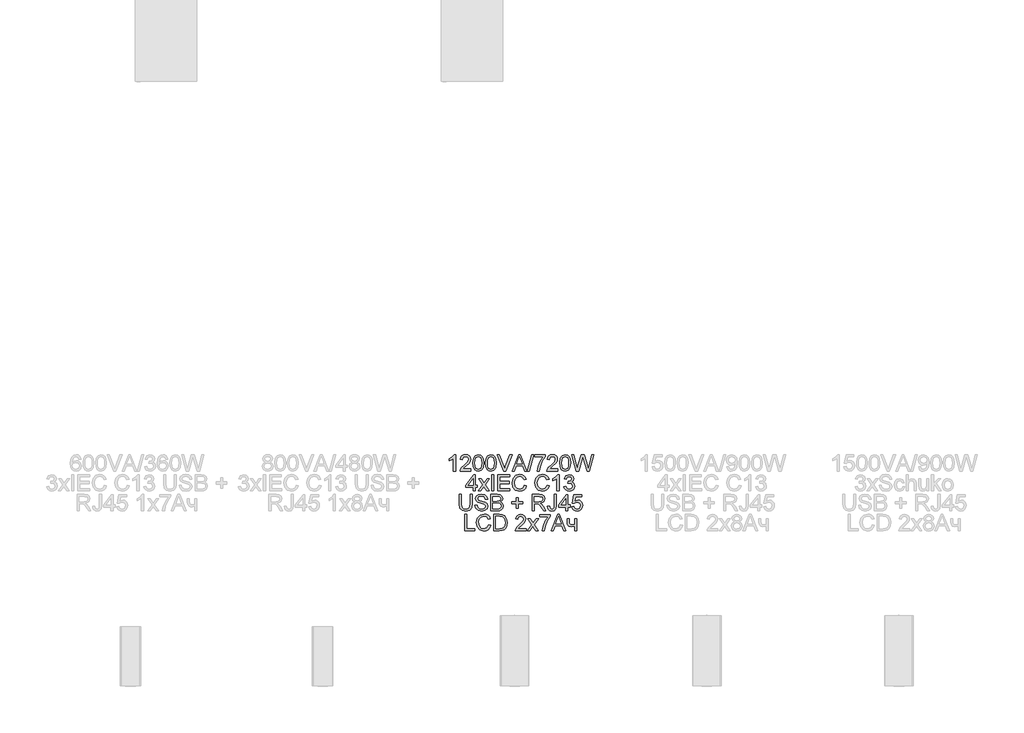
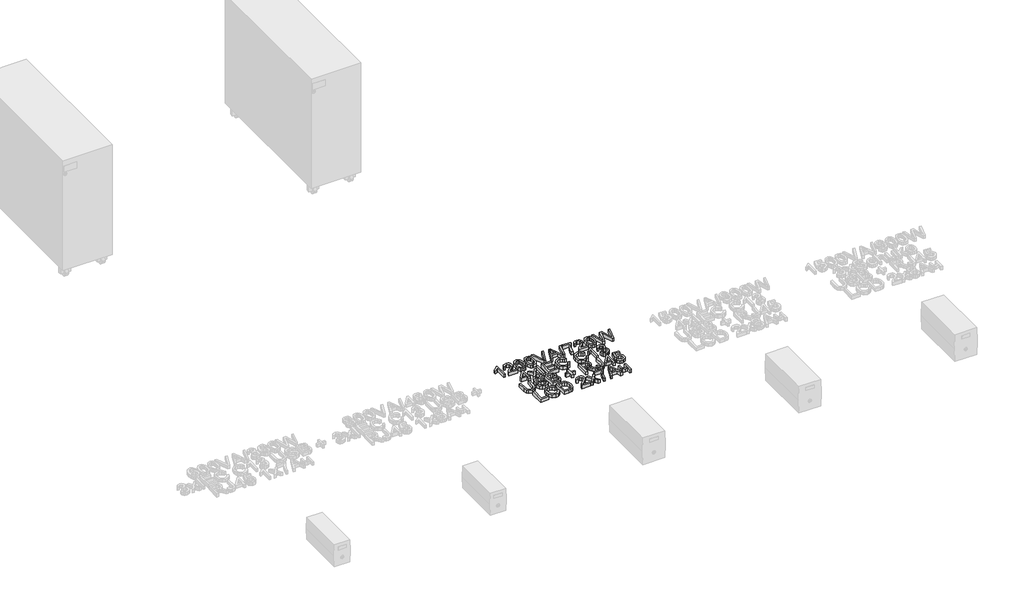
# One storey, part 41 of 74: 1 proxy.
"""IFC4 building model written with IfcOpenShell, lengths in millimetres."""

from ifc_helpers import new_model, si_unit, origin, origin_with_axes, place, context, project, spatial, polyline, outline, extrude, element, save

model = new_model("IFC4")

# Units and contexts
model_context = context("Model", 3, world=origin())
ifc_project = project(units=[si_unit("LENGTHUNIT", "METRE", prefix="MILLI")], contexts=[model_context])

# Site, building, storey
site = spatial("IfcSite", under=ifc_project)
building = spatial("IfcBuilding", under=site)
storey = spatial("IfcBuildingStorey", under=building, Name="Этаж 01", Elevation=0.0)

# Proxy
placement = place(None, origin())
element("IfcBuildingElementProxy", 1, Name="80 мм Arial", ObjectType="80 мм Arial", at=placement, inside=storey, context=model_context, shape_type="SweptSolid", body=[
    extrude(outline(polyline([(5771.7614359, -11026.633326), (5761.7158049, -11026.633326), (5761.7158049, -10964.0050951), (5752.1999239, -10970.783934), (5741.6245428, -10975.8558004), (5741.6245428, -10966.3595399), (5756.3496328, -10956.9613812), (5765.2867128, -10946.2682778), (5771.7614359, -10946.2682778), (5771.7614359, -11026.633326)])), origin_with_axes(), (0.0, 0.0, 1.0), 20.0),
    extrude(outline(polyline([(5847.1036685, -11016.5876949), (5847.1036685, -11026.633326), (5794.3641057, -11026.633326), (5795.4432262, -11019.7073343), (5801.5451622, -11009.0436615), (5814.1218214, -10997.3989701), (5831.4662312, -10980.6627918), (5835.8023336, -10969.2829755), (5831.7114858, -10960.0712103), (5821.0281927, -10956.3139089), (5809.893631, -10959.9829186), (5805.6654406, -10970.1266515), (5795.6198095, -10968.8709476), (5798.0551884, -10959.1539579), (5803.320806, -10952.0562879), (5811.1419772, -10947.7152804), (5821.2440168, -10946.2682778), (5831.4196328, -10947.8771484), (5839.2260887, -10952.7037602), (5844.1924956, -10959.9142473), (5845.8479646, -10968.6747439), (5844.0625107, -10978.200435), (5838.1273478, -10988.0498623), (5823.7358042, -11001.813554), (5812.1794044, -11011.4765878), (5807.6470982, -11016.5876949), (5847.1036685, -11016.5876949)])), origin_with_axes(), (0.0, 0.0, 1.0), 20.0),
    extrude(outline(polyline([(5857.1492995, -10987.0982742), (5860.1021657, -10963.9756645), (5868.8724724, -10950.643621), (5883.5190809, -10946.2682778), (5895.252064, -10948.8581671), (5903.3552781, -10956.323719), (5908.0641676, -10968.2136651), (5909.8888623, -10987.0982742), (5906.9654267, -11010.122782), (5898.2245505, -11023.4842561), (5883.5190809, -11027.8890298), (5873.0810424, -11025.9760435), (5865.1544117, -11020.2370843), (5859.1505776, -11006.6450709), (5857.1492995, -10987.0982742)]), holes=[polyline([(5867.1949305, -10987.0786538), (5868.3721529, -11002.8804118), (5871.9038201, -11012.0259582), (5883.5190809, -11017.8433988), (5895.1343418, -11012.0063378), (5898.6660089, -11002.8558863), (5899.8432313, -10987.0786538), (5898.7052497, -10971.6325151), (5895.2913048, -10962.4158449), (5890.042855, -10957.8393929), (5883.4013587, -10956.3139089), (5872.060783, -10961.6898911), (5868.4113937, -10971.4804572), (5867.1949305, -10987.0786538)])]), origin_with_axes(), (0.0, 0.0, 1.0), 20.0),
    extrude(outline(polyline([(5918.6787895, -10987.0982742), (5921.6316556, -10963.9756645), (5930.4019624, -10950.643621), (5945.0485709, -10946.2682778), (5956.781554, -10948.8581671), (5964.8847681, -10956.323719), (5969.5936576, -10968.2136651), (5971.4183523, -10987.0982742), (5968.4949167, -11010.122782), (5959.7540405, -11023.4842561), (5945.0485709, -11027.8890298), (5934.6105324, -11025.9760435), (5926.6839017, -11020.2370843), (5920.6800675, -11006.6450709), (5918.6787895, -10987.0982742)]), holes=[polyline([(5928.7244205, -10987.0786538), (5929.9016429, -11002.8804118), (5933.43331, -11012.0259582), (5945.0485709, -11017.8433988), (5956.6638318, -11012.0063378), (5960.1954989, -11002.8558863), (5961.3727213, -10987.0786538), (5960.2347397, -10971.6325151), (5956.8207947, -10962.4158449), (5951.5723449, -10957.8393929), (5944.9308487, -10956.3139089), (5933.590273, -10961.6898911), (5929.9408836, -10971.4804572), (5928.7244205, -10987.0786538)])]), origin_with_axes(), (0.0, 0.0, 1.0), 20.0),
    extrude(outline(polyline([(6007.7160425, -11026.633326), (5975.7348344, -10946.2682778), (5986.4867988, -10946.2682778), (6007.8926259, -11004.1679988), (6012.2287283, -11017.2155469), (6016.5059696, -11004.1679988), (6037.9706578, -10946.2682778), (6048.7226222, -10946.2682778), (6018.0952199, -11026.633326), (6007.7160425, -11026.633326)])), origin_with_axes(), (0.0, 0.0, 1.0), 20.0),
    extrude(outline(polyline([(6048.7030019, -11026.633326), (6080.7823118, -10946.2682778), (6089.3367945, -10946.2682778), (6121.4161045, -11026.633326), (6110.8014826, -11026.633326), (6101.5995277, -11001.5192484), (6068.4999583, -11001.5192484), (6059.3176237, -11026.633326), (6048.7030019, -11026.633326)]), holes=[polyline([(6072.1885884, -10991.4736174), (6097.9305179, -10991.4736174), (6090.6906002, -10971.7159017), (6085.0595532, -10956.3139089), (6080.056358, -10969.9893089), (6072.1885884, -10991.4736174)])]), origin_with_axes(), (0.0, 0.0, 1.0), 20.0),
    extrude(outline(polyline([(6123.3585214, -11026.633326), (6145.9611912, -10946.2682778), (6155.0258036, -10946.2682778), (6132.4231338, -11026.633326), (6123.3585214, -11026.633326)])), origin_with_axes(), (0.0, 0.0, 1.0), 20.0),
    extrude(outline(polyline([(6159.7739338, -10957.5696127), (6159.7739338, -10947.5239817), (6212.5134967, -10947.5239817), (6212.5134967, -10955.6468162), (6197.5529622, -10977.2586571), (6186.1044745, -11004.7958507), (6182.3766036, -11026.633326), (6172.3309726, -11026.633326), (6176.3237185, -11003.9717951), (6187.2816969, -10978.357398), (6202.4678656, -10957.5696127), (6159.7739338, -10957.5696127)])), origin_with_axes(), (0.0, 0.0, 1.0), 20.0),
    extrude(outline(polyline([(6272.7872828, -11016.5876949), (6272.7872828, -11026.633326), (6220.0477199, -11026.633326), (6221.1268404, -11019.7073343), (6227.2287765, -11009.0436615), (6239.8054356, -10997.3989701), (6257.1498454, -10980.6627918), (6261.4859479, -10969.2829755), (6257.3951001, -10960.0712103), (6246.7118069, -10956.3139089), (6235.5772452, -10959.9829186), (6231.3490548, -10970.1266515), (6221.3034238, -10968.8709476), (6223.7388026, -10959.1539579), (6229.0044202, -10952.0562879), (6236.8255915, -10947.7152804), (6246.927631, -10946.2682778), (6257.103247, -10947.8771484), (6264.909703, -10952.7037602), (6269.8761099, -10959.9142473), (6271.5315789, -10968.6747439), (6269.7461249, -10978.200435), (6263.8109621, -10988.0498623), (6249.4194184, -11001.813554), (6237.8630187, -11011.4765878), (6233.3307125, -11016.5876949), (6272.7872828, -11016.5876949)])), origin_with_axes(), (0.0, 0.0, 1.0), 20.0),
    extrude(outline(polyline([(6282.8329138, -10987.0982742), (6285.7857799, -10963.9756645), (6294.5560867, -10950.643621), (6309.2026952, -10946.2682778), (6320.9356783, -10948.8581671), (6329.0388924, -10956.323719), (6333.7477819, -10968.2136651), (6335.5724766, -10987.0982742), (6332.649041, -11010.122782), (6323.9081648, -11023.4842561), (6309.2026952, -11027.8890298), (6298.7646567, -11025.9760435), (6290.838026, -11020.2370843), (6284.8341918, -11006.6450709), (6282.8329138, -10987.0982742)]), holes=[polyline([(6292.8785448, -10987.0786538), (6294.0557672, -11002.8804118), (6297.5874343, -11012.0259582), (6309.2026952, -11017.8433988), (6320.817956, -11012.0063378), (6324.3496232, -11002.8558863), (6325.5268456, -10987.0786538), (6324.3888639, -10971.6325151), (6320.974919, -10962.4158449), (6315.7264692, -10957.8393929), (6309.0849729, -10956.3139089), (6297.7443973, -10961.6898911), (6294.0950079, -10971.4804572), (6292.8785448, -10987.0786538)])]), origin_with_axes(), (0.0, 0.0, 1.0), 20.0),
    extrude(outline(polyline([(6362.5112488, -11026.633326), (6340.5952921, -10946.2682778), (6350.9548491, -10946.2682778), (6363.6688508, -10999.0863222), (6367.5929255, -11015.3908522), (6371.7916853, -11000.969878), (6387.7234282, -10946.2682778), (6402.6545321, -10946.2682778), (6414.2305523, -10985.9210518), (6422.843896, -11015.3908522), (6426.6502484, -10999.5572111), (6439.4819724, -10946.2682778), (6449.8415294, -10946.2682778), (6427.9059523, -11026.633326), (6417.1736082, -11026.633326), (6397.9064019, -10964.632947), (6395.2184107, -10955.9803625), (6392.1968733, -10966.3987806), (6374.6366394, -11026.633326), (6362.5112488, -11026.633326)])), origin_with_axes(), (0.0, 0.0, 1.0), 20.0),
    extrude(outline(polyline([(5858.4050034, -11124.2131802), (5858.4050034, -11105.3776221), (5821.989591, -11105.3776221), (5821.989591, -11095.3319911), (5860.9164111, -11045.103836), (5868.4506344, -11045.103836), (5868.4506344, -11095.3319911), (5878.4962654, -11095.3319911), (5878.4962654, -11105.3776221), (5868.4506344, -11105.3776221), (5868.4506344, -11124.2131802), (5858.4050034, -11124.2131802)]), holes=[polyline([(5858.4050034, -11095.3319911), (5858.4050034, -11064.2925609), (5834.350426, -11095.3319911), (5858.4050034, -11095.3319911)])]), origin_with_axes(), (0.0, 0.0, 1.0), 20.0),
    extrude(outline(polyline([(5883.5190809, -11124.2131802), (5904.9837691, -11094.5471761), (5884.7747848, -11065.195098), (5896.8609346, -11065.195098), (5906.61226, -11079.3217666), (5911.1641866, -11085.9926935), (5915.1078816, -11080.5382298), (5926.2130127, -11065.195098), (5938.2991626, -11065.195098), (5917.0699189, -11094.5471761), (5937.5143476, -11124.2131802), (5925.4281978, -11124.2131802), (5913.1262239, -11106.3782611), (5910.869881, -11103.1212792), (5895.6052307, -11124.2131802), (5883.5190809, -11124.2131802)])), origin_with_axes(), (0.0, 0.0, 1.0), 20.0),
    extrude(outline(polyline([(5948.8156825, -11124.2131802), (5948.8156825, -11043.8481321), (5958.8613135, -11043.8481321), (5958.8613135, -11124.2131802), (5948.8156825, -11124.2131802)])), origin_with_axes(), (0.0, 0.0, 1.0), 20.0),
    extrude(outline(polyline([(5978.9525756, -11124.2131802), (5978.9525756, -11043.8481321), (6036.7149539, -11043.8481321), (6036.7149539, -11053.8937631), (5988.9982066, -11053.8937631), (5988.9982066, -11077.7521368), (6034.2035461, -11077.7521368), (6034.2035461, -11087.7977678), (5988.9982066, -11087.7977678), (5988.9982066, -11114.1675492), (6037.9706578, -11114.1675492), (6037.9706578, -11124.2131802), (5978.9525756, -11124.2131802)])), origin_with_axes(), (0.0, 0.0, 1.0), 20.0),
    extrude(outline(polyline([(6109.5457788, -11095.645917), (6119.5914098, -11098.2358063), (6114.9560966, -11109.9418114), (6107.6818433, -11118.4938415), (6098.1267216, -11123.7251235), (6086.6488034, -11125.4688841), (6065.7432959, -11120.1910038), (6053.4805627, -11104.9067331), (6049.2719927, -11083.4224246), (6054.0299331, -11061.5849494), (6067.5581804, -11047.4288502), (6086.8646275, -11042.5924282), (6097.8790144, -11044.157153), (6106.9853201, -11048.8513273), (6113.899049, -11056.3855505), (6118.3357059, -11066.4704223), (6108.2900749, -11068.8641078), (6100.0495182, -11056.5130829), (6086.47222, -11052.6380593), (6070.7563012, -11056.934921), (6061.8780824, -11068.4717003), (6059.3176237, -11083.4028042), (6062.3489713, -11100.7079733), (6071.7863708, -11111.7640535), (6085.6481644, -11115.4232531), (6101.0207267, -11110.4396783), (6109.5457788, -11095.645917)])), origin_with_axes(), (0.0, 0.0, 1.0), 20.0),
    extrude(outline(polyline([(6221.3034238, -11095.645917), (6231.3490548, -11098.2358063), (6226.7137417, -11109.9418114), (6219.4394884, -11118.4938415), (6209.8843667, -11123.7251235), (6198.4064484, -11125.4688841), (6177.5009409, -11120.1910038), (6165.2382077, -11104.9067331), (6161.0296377, -11083.4224246), (6165.7875782, -11061.5849494), (6179.3158254, -11047.4288502), (6198.6222725, -11042.5924282), (6209.6366595, -11044.157153), (6218.7429651, -11048.8513273), (6225.6566941, -11056.3855505), (6230.0933509, -11066.4704223), (6220.0477199, -11068.8641078), (6211.8071632, -11056.5130829), (6198.2298651, -11052.6380593), (6182.5139462, -11056.934921), (6173.6357274, -11068.4717003), (6171.0752687, -11083.4028042), (6174.1066164, -11100.7079733), (6183.5440158, -11111.7640535), (6197.4058094, -11115.4232531), (6212.7783717, -11110.4396783), (6221.3034238, -11095.645917)])), origin_with_axes(), (0.0, 0.0, 1.0), 20.0),
    extrude(outline(polyline([(6279.0658021, -11124.2131802), (6269.0201711, -11124.2131802), (6269.0201711, -11061.5849494), (6259.5042902, -11068.3637883), (6248.9289091, -11073.4356547), (6248.9289091, -11063.9393941), (6263.6539991, -11054.5412354), (6272.591079, -11043.8481321), (6279.0658021, -11043.8481321), (6279.0658021, -11124.2131802)])), origin_with_axes(), (0.0, 0.0, 1.0), 20.0),
    extrude(outline(polyline([(6302.9241758, -11102.8662143), (6312.9698068, -11101.6105105), (6318.5125622, -11112.1858915), (6328.8819294, -11115.4232531), (6341.0858014, -11110.9694284), (6345.6181076, -11099.9427787), (6341.1250422, -11089.5537912), (6329.705985, -11085.443323), (6322.6622711, -11086.5420639), (6323.7806324, -11076.4964329), (6325.389503, -11076.6141552), (6336.7889397, -11073.7299603), (6341.850996, -11064.8615517), (6338.1819862, -11057.0035923), (6328.7249664, -11053.8937631), (6319.1502243, -11057.0330228), (6314.2255107, -11066.4508019), (6304.1798797, -11065.195098), (6312.400816, -11049.4399384), (6328.3717997, -11043.8481321), (6340.4873801, -11046.6047945), (6348.9633812, -11054.1390178), (6351.896627, -11064.2729405), (6349.110534, -11073.5337566), (6340.8699773, -11080.1850631), (6351.8181455, -11087.0521936), (6355.6637386, -11100.1193621), (6353.7409421, -11109.9099283), (6347.9725524, -11118.0916238), (6339.2660118, -11123.624569), (6328.5287627, -11125.4688841), (6318.816678, -11123.8943492), (6310.9096676, -11119.1707444), (6305.4110581, -11111.945542), (6302.9241758, -11102.8662143)])), origin_with_axes(), (0.0, 0.0, 1.0), 20.0),
    extrude(outline(polyline([(5843.3365569, -11141.4279864), (5853.3821879, -11141.4279864), (5853.3821879, -11187.790928), (5850.654956, -11207.0090834), (5840.8251491, -11218.5851035), (5822.1857947, -11223.0487384), (5803.8309357, -11219.1639045), (5793.647962, -11207.9116206), (5790.596994, -11187.790928), (5790.596994, -11141.4279864), (5800.6426251, -11141.4279864), (5800.6426251, -11187.4377613), (5802.6242827, -11202.7514624), (5809.4325522, -11210.3347366), (5821.2440168, -11213.0031074), (5831.4613261, -11211.6836373), (5838.2548802, -11207.725227), (5842.0661377, -11200.0144204), (5843.3365569, -11187.4377613), (5843.3365569, -11141.4279864)])), origin_with_axes(), (0.0, 0.0, 1.0), 20.0),
    extrude(outline(polyline([(5867.1949305, -11194.1675492), (5877.2405615, -11194.1675492), (5880.4779231, -11204.2229904), (5888.3849334, -11210.5799913), (5900.4318425, -11213.0031074), (5910.9287421, -11211.1686025), (5917.707581, -11206.1261666), (5919.9344934, -11199.3865685), (5918.2667616, -11193.1178593), (5911.4388718, -11188.5561225), (5896.8118837, -11184.7203396), (5881.0665343, -11179.7661954), (5872.5218618, -11172.2908332), (5869.7063383, -11162.3040633), (5873.1889545, -11150.9340571), (5883.3621179, -11142.9093246), (5898.2539811, -11140.1722825), (5914.1464833, -11143.036857), (5924.7414848, -11151.453997), (5928.7244205, -11164.0306562), (5918.6787895, -11164.0306562), (5912.9888813, -11153.7103399), (5898.6463886, -11150.2179135), (5884.2646551, -11153.6710992), (5879.7519693, -11162.0097577), (5882.9500901, -11168.9749902), (5899.352722, -11174.5864169), (5917.12878, -11179.6288528), (5926.8506749, -11187.7713076), (5929.9801244, -11199.1315036), (5926.3797859, -11211.1489821), (5916.0202289, -11219.9192889), (5900.82425, -11223.0487384), (5882.8814188, -11219.6740342), (5871.531033, -11209.510681), (5867.1949305, -11194.1675492)])), origin_with_axes(), (0.0, 0.0, 1.0), 20.0),
    extrude(outline(polyline([(5945.0485709, -11221.7930345), (5945.0485709, -11141.4279864), (5975.715214, -11141.4279864), (5990.7346096, -11143.7922413), (5999.6030182, -11151.0615896), (6002.8109492, -11161.3426651), (6000.1131479, -11170.7310136), (5991.9608829, -11177.8433988), (6001.8593611, -11185.3383813), (6005.322357, -11197.836559), (6002.958102, -11208.6375744), (5997.1014207, -11216.3287606), (5988.3605445, -11220.4097982), (5975.4797695, -11221.7930345), (5945.0485709, -11221.7930345)]), holes=[polyline([(5955.0942019, -11174.0762872), (5973.4392507, -11174.0762872), (5984.1519744, -11173.2129908), (5990.597267, -11169.4949301), (5992.7653182, -11162.9515357), (5990.7444198, -11156.3983311), (5984.9564097, -11152.5233074), (5972.0462042, -11151.4736174), (5955.0942019, -11151.4736174), (5955.0942019, -11174.0762872)]), polyline([(5955.0942019, -11211.7474035), (5975.6955936, -11211.7474035), (5983.1513354, -11211.354996), (5989.4592853, -11209.1673244), (5993.6384248, -11204.7036896), (5995.276726, -11197.9346609), (5993.3539294, -11190.1257524), (5987.124461, -11185.4659138), (5974.714575, -11184.1219182), (5955.0942019, -11184.1219182), (5955.0942019, -11211.7474035)])]), origin_with_axes(), (0.0, 0.0, 1.0), 20.0),
    extrude(outline(polyline([(6069.3632547, -11209.2359957), (6069.3632547, -11187.8890298), (6048.0162888, -11187.8890298), (6048.0162888, -11177.8433988), (6069.3632547, -11177.8433988), (6069.3632547, -11156.4964329), (6079.4088857, -11156.4964329), (6079.4088857, -11177.8433988), (6100.7558516, -11177.8433988), (6100.7558516, -11187.8890298), (6079.4088857, -11187.8890298), (6079.4088857, -11209.2359957), (6069.3632547, -11209.2359957)])), origin_with_axes(), (0.0, 0.0, 1.0), 20.0),
    extrude(outline(polyline([(6147.2168951, -11221.7930345), (6147.2168951, -11141.4279864), (6181.8468535, -11141.4279864), (6197.9257493, -11143.5960376), (6206.7156764, -11151.2676035), (6210.0020889, -11163.4224246), (6204.5574354, -11177.9022599), (6187.7329655, -11185.3776221), (6193.442494, -11189.6744838), (6201.5849489, -11200.0144204), (6214.9856637, -11221.7930345), (6203.3115417, -11221.7930345), (6192.8538828, -11205.1353378), (6185.3000392, -11194.1086881), (6179.9927283, -11188.8994791), (6175.2151674, -11186.9864927), (6169.3879166, -11186.633326), (6157.2625261, -11186.633326), (6157.2625261, -11221.7930345), (6147.2168951, -11221.7930345)]), holes=[polyline([(6157.2625261, -11176.5876949), (6179.7474736, -11176.5876949), (6191.2155817, -11175.1652179), (6197.7295456, -11170.6132913), (6199.9564579, -11163.7952117), (6195.7086471, -11154.9464234), (6182.2785018, -11151.4736174), (6157.2625261, -11151.4736174), (6157.2625261, -11176.5876949)])]), origin_with_axes(), (0.0, 0.0, 1.0), 20.0),
    extrude(outline(polyline([(6222.5591277, -11199.2296055), (6232.6047587, -11197.9346609), (6236.038324, -11209.8049866), (6244.5143252, -11213.0031074), (6251.3912659, -11211.1882229), (6255.3742016, -11206.2438889), (6256.4631324, -11196.2865495), (6256.4631324, -11141.4279864), (6266.5087634, -11141.4279864), (6266.5087634, -11196.1099662), (6264.0856473, -11211.7179729), (6256.394461, -11220.1449232), (6244.0434362, -11223.0487384), (6234.7580946, -11221.5502324), (6227.9351099, -11217.0547144), (6223.7952112, -11209.6014252), (6222.5591277, -11199.2296055)])), origin_with_axes(), (0.0, 0.0, 1.0), 20.0),
    extrude(outline(polyline([(6312.9698068, -11221.7930345), (6312.9698068, -11202.9574764), (6276.5543944, -11202.9574764), (6276.5543944, -11192.9118453), (6315.4812146, -11142.6836903), (6323.0154378, -11142.6836903), (6323.0154378, -11192.9118453), (6333.0610688, -11192.9118453), (6333.0610688, -11202.9574764), (6323.0154378, -11202.9574764), (6323.0154378, -11221.7930345), (6312.9698068, -11221.7930345)]), holes=[polyline([(6312.9698068, -11192.9118453), (6312.9698068, -11161.8724151), (6288.9152294, -11192.9118453), (6312.9698068, -11192.9118453)])]), origin_with_axes(), (0.0, 0.0, 1.0), 20.0),
    extrude(outline(polyline([(6341.850996, -11200.4460686), (6351.896627, -11199.1903647), (6356.9586833, -11209.5401115), (6367.4555828, -11213.0031074), (6380.0518624, -11208.1863058), (6384.5449278, -11195.4036327), (6380.3363578, -11183.4744459), (6367.6125458, -11179.0991027), (6358.7931881, -11180.8453159), (6353.1523309, -11185.3776221), (6343.1066999, -11184.1219182), (6351.896627, -11142.6836903), (6390.8234472, -11142.6836903), (6390.8234472, -11152.7293213), (6360.0194614, -11152.7293213), (6355.7225997, -11174.8611021), (6370.4182592, -11169.0534717), (6379.8041552, -11170.8536409), (6387.5958958, -11176.2541486), (6392.8418931, -11184.4848951), (6394.5905588, -11194.7757808), (6393.0160239, -11204.8214118), (6388.2924191, -11213.4151352), (6379.2474271, -11220.6403376), (6367.4163421, -11223.0487384), (6357.549747, -11221.5011815), (6349.689335, -11216.8585107), (6344.3010901, -11209.6602863), (6341.850996, -11200.4460686)])), origin_with_axes(), (0.0, 0.0, 1.0), 20.0),
    extrude(outline(polyline([(5816.3389235, -11319.3728888), (5816.3389235, -11239.0078407), (5826.3845545, -11239.0078407), (5826.3845545, -11309.3272578), (5866.5670786, -11309.3272578), (5866.5670786, -11319.3728888), (5816.3389235, -11319.3728888)])), origin_with_axes(), (0.0, 0.0, 1.0), 20.0),
    extrude(outline(polyline([(5934.3750879, -11290.8056256), (5944.420719, -11293.3955148), (5939.7854058, -11305.1015199), (5932.5111525, -11313.65355), (5922.9560308, -11318.884832), (5911.4781126, -11320.6285927), (5890.572605, -11315.3507123), (5878.3098719, -11300.0664417), (5874.1013018, -11278.5821332), (5878.8592423, -11256.7446579), (5892.3874896, -11242.5885588), (5911.6939367, -11237.7521368), (5922.7083236, -11239.3168615), (5931.8146293, -11244.0110358), (5938.7283582, -11251.5452591), (5943.1650151, -11261.6301308), (5933.1193841, -11264.0238163), (5924.8788274, -11251.6727915), (5911.3015292, -11247.7977678), (5895.5856104, -11252.0946295), (5886.7073915, -11263.6314089), (5884.1469329, -11278.5625128), (5887.1782805, -11295.8676818), (5896.61568, -11306.9237621), (5910.4774735, -11310.5829617), (5925.8500358, -11305.5993869), (5934.3750879, -11290.8056256)])), origin_with_axes(), (0.0, 0.0, 1.0), 20.0),
    extrude(outline(polyline([(5958.2334616, -11319.3728888), (5958.2334616, -11239.0078407), (5985.9570488, -11239.0078407), (6000.2995415, -11240.1654427), (6012.1110061, -11245.914212), (6021.626887, -11259.6484731), (6024.7857671, -11278.7587165), (6022.6471464, -11294.9749549), (6017.1534419, -11306.6785074), (6009.8154224, -11313.967476), (6000.2112498, -11317.9994627), (5987.2912341, -11319.3728888), (5958.2334616, -11319.3728888)]), holes=[polyline([(5968.2790926, -11309.3272578), (5986.0551506, -11309.3272578), (5998.9849765, -11307.8753502), (6006.4407182, -11303.7746922), (6012.5524645, -11293.7977325), (6014.7401361, -11278.6017535), (6010.4530845, -11259.5699917), (6000.0248562, -11250.6623423), (5985.7804654, -11249.0534717), (5968.2790926, -11249.0534717), (5968.2790926, -11309.3272578)])]), origin_with_axes(), (0.0, 0.0, 1.0), 20.0),
    extrude(outline(polyline([(6117.707854, -11309.3272578), (6117.707854, -11319.3728888), (6064.9682911, -11319.3728888), (6066.0474117, -11312.4468971), (6072.1493477, -11301.7832243), (6084.7260068, -11290.1385329), (6102.0704166, -11273.4023547), (6106.4065191, -11262.0225383), (6102.3156713, -11252.8107731), (6091.6323781, -11249.0534717), (6080.4978164, -11252.7224814), (6076.269626, -11262.8662143), (6066.223995, -11261.6105105), (6068.6593738, -11251.8935207), (6073.9249914, -11244.7958507), (6081.7461627, -11240.4548432), (6091.8482022, -11239.0078407), (6102.0238182, -11240.6167113), (6109.8302742, -11245.443323), (6114.7966811, -11252.6538101), (6116.4521501, -11261.4143067), (6114.6666961, -11270.9399979), (6108.7315333, -11280.7894251), (6094.3399896, -11294.5531168), (6082.7835899, -11304.2161506), (6078.2512837, -11309.3272578), (6117.707854, -11309.3272578)])), origin_with_axes(), (0.0, 0.0, 1.0), 20.0),
    extrude(outline(polyline([(6123.9863733, -11319.3728888), (6145.4510615, -11289.7068847), (6125.2420772, -11260.3548066), (6137.328227, -11260.3548066), (6147.0795525, -11274.4814752), (6151.631479, -11281.152402), (6155.575174, -11275.6979383), (6166.6803052, -11260.3548066), (6178.766455, -11260.3548066), (6157.5372113, -11289.7068847), (6177.98164, -11319.3728888), (6165.8954902, -11319.3728888), (6153.5935163, -11301.5379697), (6151.3371734, -11298.2809877), (6136.0725232, -11319.3728888), (6123.9863733, -11319.3728888)])), origin_with_axes(), (0.0, 0.0, 1.0), 20.0),
    extrude(outline(polyline([(6184.2601594, -11250.3091756), (6184.2601594, -11240.2635445), (6236.9997223, -11240.2635445), (6236.9997223, -11248.386379), (6222.0391878, -11269.9982199), (6210.5907001, -11297.5354136), (6206.8628292, -11319.3728888), (6196.8171982, -11319.3728888), (6200.8099441, -11296.7113579), (6211.7679225, -11271.0969608), (6226.9540912, -11250.3091756), (6184.2601594, -11250.3091756)])), origin_with_axes(), (0.0, 0.0, 1.0), 20.0),
    extrude(outline(polyline([(6240.1978431, -11319.3728888), (6272.2771531, -11239.0078407), (6280.8316357, -11239.0078407), (6312.9109457, -11319.3728888), (6302.2963239, -11319.3728888), (6293.0943689, -11294.2588113), (6259.9947995, -11294.2588113), (6250.8124649, -11319.3728888), (6240.1978431, -11319.3728888)]), holes=[polyline([(6263.6834296, -11284.2131802), (6289.4253591, -11284.2131802), (6282.1854415, -11264.4554645), (6276.5543944, -11249.0534717), (6271.5511992, -11262.7288717), (6263.6834296, -11284.2131802)])]), origin_with_axes(), (0.0, 0.0, 1.0), 20.0),
    extrude(outline(polyline([(6318.6204743, -11260.3548066), (6328.6661053, -11260.3548066), (6328.6661053, -11271.6757618), (6329.4803508, -11282.2903837), (6333.3946152, -11288.039153), (6341.1642829, -11290.4916996), (6355.0358867, -11287.4505418), (6355.0358867, -11260.3548066), (6365.0815177, -11260.3548066), (6365.0815177, -11319.3728888), (6355.0358867, -11319.3728888), (6355.0358867, -11297.084145), (6338.4762918, -11300.5373306), (6327.0866652, -11296.9369922), (6320.3863078, -11288.1176345), (6318.6204743, -11276.6397162), (6318.6204743, -11260.3548066)])), origin_with_axes(), (0.0, 0.0, 1.0), 20.0),
])

save(model, "model.ifc")
